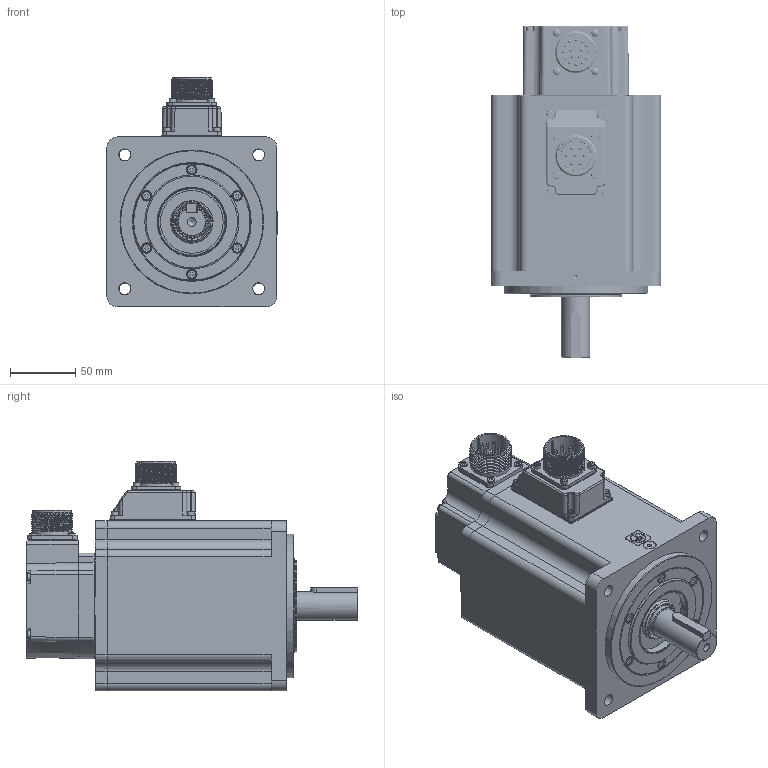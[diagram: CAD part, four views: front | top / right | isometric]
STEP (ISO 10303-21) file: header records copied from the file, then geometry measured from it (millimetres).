
FILE_DESCRIPTION(/* description */ ('AdapterTestApp'),/* implementation_level */ '2;1');
FILE_NAME(/* name */ 'TCE130 5H XX 3 A1 0 C3',/* time_stamp */ '2015-09-16T17:26:27+02:00',/* author */ ('AdapterTestApp'),/* organization */ ('Siemens PLM Software'),/* preprocessor_version */ 'ST-DEVELOPER v15.6',/* originating_system */ 'DEX',/* authorisation */ $);
FILE_SCHEMA (('AUTOMOTIVE_DESIGN {1 0 10303 214 3 1 1}'));
Products named in the file (31): TCE130 5H XX 3 A1 0 C3_vuoto; U5160003_vuoto; 003120002515; 003799000580; 003303000370; 003303000373; 005117001750; 005911000201; 005911000150; cap-M3 nudo; 005123001528; 005204000001; 005911000430; 003003199409; 005123000600; 003103001509; 005008000690; back cover TCE100 + CN MIL; 001107000620; 005911000525; 003108015154; 003251022006; 005911003623; 005911000493; 005204000002; 005204000003; 005113002005; 005119000340; 003155002050; 005008000842; 005008000302
Assembly tree (57 placements, depth 3):
  TCE130 5H XX 3 A1 0 C3_vuoto
    U5160003_vuoto
      003120002515
      003799000580
      003303000370
      003303000373
      005117001750
      005911000201  x8
      005911000150
      cap-M3 nudo
    005123001528
    005204000001
    005911000430  x6
    003003199409
    005123000600
    003103001509
    005008000690  x2
    back cover TCE100 + CN MIL
      001107000620
      003303000373
      005911000525  x4
      003108015154
    003251022006
    005911003623  x8
    005911000493  x4
    005204000002
    005204000003
    005113002005
    005119000340
    003155002050
    005008000842
    005008000302
Bounding box: 130.3 x 254 x 175.8 mm (x, y, z)
Volume: 1066203.6 mm3; surface area: 391327.5 mm2
Topology: 70 solids, 80 shells, 2965 faces, 7347 edges, 4732 vertices
Faces by surface type: plane 1497, cylinder 712, extrusion 233, cone 159, torus 152, bspline 140, sphere 72
Full cylindrical faces by diameter (mm): 2 x34, 2.224 x1, 2.4 x8, 2.459 x21, 2.5 x1, 2.6 x1, 2.8 x7, 2.9 x4, 3 x30, 3.048 x4, 3.2 x5, 3.242 x24, 3.5 x15, 3.6 x1, 3.7 x8, 3.8 x2, 4 x19, 4.134 x16, 4.5 x6, 4.7 x11, 5 x8, 5.1 x1, 5.5 x35, 5.6 x4, 5.8 x6, 6.647 x2, 7 x6, 8 x12, 8.5 x8, 10 x1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
Entity records: 91057 total; most frequent: CARTESIAN_POINT 32289, ORIENTED_EDGE 11274, DIRECTION 11070, EDGE_CURVE 5637, VERTEX_POINT 3963, AXIS2_PLACEMENT_3D 3851, FACE_BOUND 3492, EDGE_LOOP 3438
